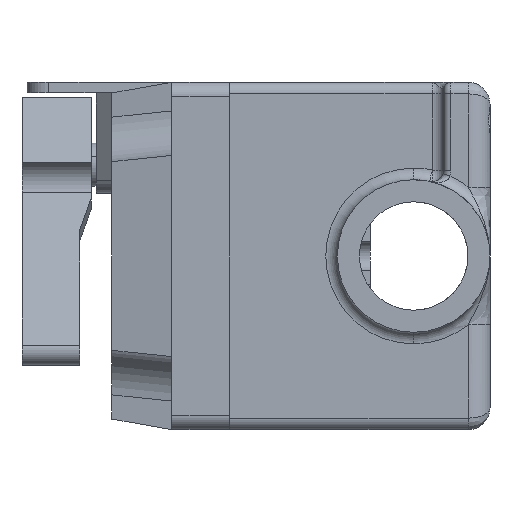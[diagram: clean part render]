
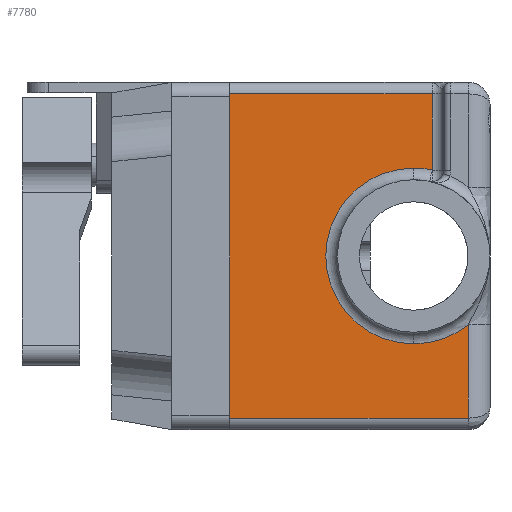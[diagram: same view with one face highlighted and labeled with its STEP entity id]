
A CAD part, left-side view. The second image highlights one B-rep face of the part: STEP entity #7780.
In plain terms, the highlighted planar face has unit normal (-1, 0, 0).
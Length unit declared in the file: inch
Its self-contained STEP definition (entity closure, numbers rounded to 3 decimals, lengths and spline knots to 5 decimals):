
#39 = VECTOR ( 'NONE', #12096, 39.37008 ) ;
#299 = CARTESIAN_POINT ( 'NONE',  ( -2.3125, 0.65925, 0. ) ) ;
#470 = LINE ( 'NONE', #8263, #1249 ) ;
#861 = CARTESIAN_POINT ( 'NONE',  ( -2.3125, 2.25, 1.5 ) ) ;
#1071 = VERTEX_POINT ( 'NONE', #5223 ) ;
#1249 = VECTOR ( 'NONE', #6202, 39.37008 ) ;
#1442 = DIRECTION ( 'NONE',  ( 1., 0., 0. ) ) ;
#1456 = CARTESIAN_POINT ( 'NONE',  ( -2.3125, 2.25, 1.4 ) ) ;
#1569 = DIRECTION ( 'NONE',  ( 0., 0., -1. ) ) ;
#1592 = VECTOR ( 'NONE', #4039, 39.37008 ) ;
#1786 = FACE_OUTER_BOUND ( 'NONE', #10332, .T. ) ;
#1800 = DIRECTION ( 'NONE',  ( 1., 0., 0. ) ) ;
#1892 = CARTESIAN_POINT ( 'NONE',  ( -2.3125, 2.25, 1.4 ) ) ;
#2098 = ORIENTED_EDGE ( 'NONE', *, *, #2909, .T. ) ;
#2386 = CARTESIAN_POINT ( 'NONE',  ( -2.3125, 0.65925, 0. ) ) ;
#2909 = EDGE_CURVE ( 'NONE', #1071, #15871, #470, .T. ) ;
#3655 = DIRECTION ( 'NONE',  ( 0., 0., -1. ) ) ;
#3838 = CIRCLE ( 'NONE', #14950, 0.75925 ) ;
#3960 = VERTEX_POINT ( 'NONE', #1456 ) ;
#4039 = DIRECTION ( 'NONE',  ( 0., 0., 1. ) ) ;
#4162 = LINE ( 'NONE', #861, #39 ) ;
#4708 = VERTEX_POINT ( 'NONE', #14337 ) ;
#4922 = LINE ( 'NONE', #12747, #1592 ) ;
#5001 = EDGE_CURVE ( 'NONE', #8181, #14182, #4922, .T. ) ;
#5207 = CARTESIAN_POINT ( 'NONE',  ( -2.3125, 0.1875, -1.4 ) ) ;
#5223 = CARTESIAN_POINT ( 'NONE',  ( -2.3125, 2.25, -1.4 ) ) ;
#6202 = DIRECTION ( 'NONE',  ( 0., -1., 0. ) ) ;
#6678 = CARTESIAN_POINT ( 'NONE',  ( -2.3125, 0.1875, -0.59491 ) ) ;
#7243 = EDGE_CURVE ( 'NONE', #13065, #8181, #11763, .T. ) ;
#7780 = ADVANCED_FACE ( 'NONE', ( #1786 ), #8909, .F. ) ;
#7788 = AXIS2_PLACEMENT_3D ( 'NONE', #2386, #11135, #3655 ) ;
#7971 = ORIENTED_EDGE ( 'NONE', *, *, #7243, .T. ) ;
#7999 = CARTESIAN_POINT ( 'NONE',  ( -2.3125, 0.1875, 1.5 ) ) ;
#8027 = AXIS2_PLACEMENT_3D ( 'NONE', #15107, #1442, #10175 ) ;
#8031 = VECTOR ( 'NONE', #11767, 39.37008 ) ;
#8063 = CIRCLE ( 'NONE', #7788, 0.75925 ) ;
#8181 = VERTEX_POINT ( 'NONE', #15971 ) ;
#8263 = CARTESIAN_POINT ( 'NONE',  ( -2.3125, 2.25, -1.4 ) ) ;
#8909 = PLANE ( 'NONE',  #8027 ) ;
#8931 = ORIENTED_EDGE ( 'NONE', *, *, #13732, .T. ) ;
#9037 = DIRECTION ( 'NONE',  ( 1., 0., 0. ) ) ;
#9158 = VECTOR ( 'NONE', #15451, 39.37008 ) ;
#9184 = ORIENTED_EDGE ( 'NONE', *, *, #9929, .T. ) ;
#9274 = CARTESIAN_POINT ( 'NONE',  ( -2.3125, 0.65925, 0. ) ) ;
#9929 = EDGE_CURVE ( 'NONE', #14182, #3960, #12847, .T. ) ;
#10175 = DIRECTION ( 'NONE',  ( 0., 0., -1. ) ) ;
#10290 = ORIENTED_EDGE ( 'NONE', *, *, #12041, .T. ) ;
#10332 = EDGE_LOOP ( 'NONE', ( #2098, #15216, #10290, #8931, #7971, #10538, #9184, #14443 ) ) ;
#10340 = VERTEX_POINT ( 'NONE', #6678 ) ;
#10538 = ORIENTED_EDGE ( 'NONE', *, *, #5001, .T. ) ;
#10544 = DIRECTION ( 'NONE',  ( 0., 0., -1. ) ) ;
#11135 = DIRECTION ( 'NONE',  ( 1., 0., 0. ) ) ;
#11364 = LINE ( 'NONE', #7999, #8031 ) ;
#11763 = CIRCLE ( 'NONE', #13551, 0.75925 ) ;
#11767 = DIRECTION ( 'NONE',  ( 0., 0., 1. ) ) ;
#12041 = EDGE_CURVE ( 'NONE', #10340, #4708, #3838, .T. ) ;
#12096 = DIRECTION ( 'NONE',  ( 0., 0., 1. ) ) ;
#12716 = CARTESIAN_POINT ( 'NONE',  ( -2.3125, 0.65925, 0.75925 ) ) ;
#12747 = CARTESIAN_POINT ( 'NONE',  ( -2.3125, 0.5, 1.5 ) ) ;
#12847 = LINE ( 'NONE', #1892, #9158 ) ;
#13065 = VERTEX_POINT ( 'NONE', #12716 ) ;
#13551 = AXIS2_PLACEMENT_3D ( 'NONE', #299, #9037, #1569 ) ;
#13592 = EDGE_CURVE ( 'NONE', #1071, #3960, #4162, .T. ) ;
#13732 = EDGE_CURVE ( 'NONE', #4708, #13065, #8063, .T. ) ;
#14182 = VERTEX_POINT ( 'NONE', #14679 ) ;
#14337 = CARTESIAN_POINT ( 'NONE',  ( -2.3125, 0.65925, -0.75925 ) ) ;
#14443 = ORIENTED_EDGE ( 'NONE', *, *, #13592, .F. ) ;
#14679 = CARTESIAN_POINT ( 'NONE',  ( -2.3125, 0.5, 1.4 ) ) ;
#14950 = AXIS2_PLACEMENT_3D ( 'NONE', #9274, #1800, #10544 ) ;
#15107 = CARTESIAN_POINT ( 'NONE',  ( -2.3125, 2.25, 1.5 ) ) ;
#15216 = ORIENTED_EDGE ( 'NONE', *, *, #15514, .T. ) ;
#15451 = DIRECTION ( 'NONE',  ( 0., 1., 0. ) ) ;
#15514 = EDGE_CURVE ( 'NONE', #15871, #10340, #11364, .T. ) ;
#15871 = VERTEX_POINT ( 'NONE', #5207 ) ;
#15971 = CARTESIAN_POINT ( 'NONE',  ( -2.3125, 0.5, 0.74236 ) ) ;
